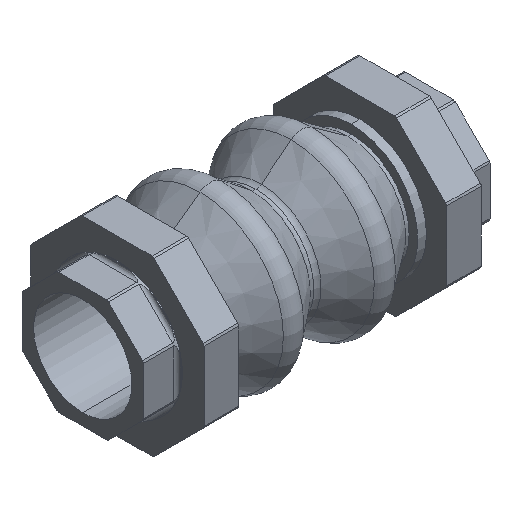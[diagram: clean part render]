
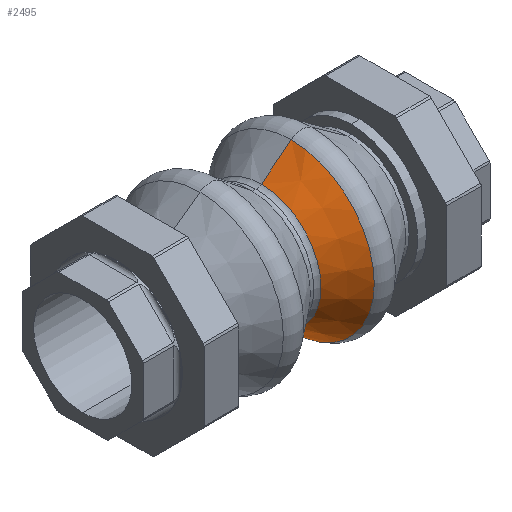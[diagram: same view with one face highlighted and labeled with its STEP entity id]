
A CAD part, isometric view. The second image highlights one B-rep face of the part: STEP entity #2495.
In plain terms, the highlighted conical face has half-angle 38.002 degrees and reference radius 47.88 mm.
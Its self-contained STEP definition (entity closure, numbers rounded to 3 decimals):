
#877 = VERTEX_POINT ( 'NONE', #2553 ) ;
#903 = EDGE_CURVE ( 'NONE', #912, #910, #2529, .T. ) ;
#905 = EDGE_CURVE ( 'NONE', #877, #912, #2570, .T. ) ;
#910 = VERTEX_POINT ( 'NONE', #2560 ) ;
#912 = VERTEX_POINT ( 'NONE', #2559 ) ;
#914 = EDGE_CURVE ( 'NONE', #877, #922, #2596, .T. ) ;
#922 = VERTEX_POINT ( 'NONE', #2585 ) ;
#2480 = EDGE_LOOP ( 'NONE', ( #3458, #3464, #3450, #3465 ) ) ;
#2495 = ADVANCED_FACE ( 'NONE', ( #4174 ), #4170, .T. ) ;
#2529 = LINE ( 'NONE', #2568, #2567 ) ;
#2545 = AXIS2_PLACEMENT_3D ( 'NONE', #2576, #2563, #2562 ) ;
#2553 = CARTESIAN_POINT ( 'NONE',  ( 3.078, 0., -34.39 ) ) ;
#2559 = CARTESIAN_POINT ( 'NONE',  ( 3.078, 0., 34.39 ) ) ;
#2560 = CARTESIAN_POINT ( 'NONE',  ( 20.343, 0., 47.88 ) ) ;
#2562 = DIRECTION ( 'NONE',  ( 0., 0., 1. ) ) ;
#2563 = DIRECTION ( 'NONE',  ( -1., 0., 0. ) ) ;
#2566 = DIRECTION ( 'NONE',  ( 0.788, 0., 0.616 ) ) ;
#2567 = VECTOR ( 'NONE', #2566, 1000. ) ;
#2568 = CARTESIAN_POINT ( 'NONE',  ( 20.343, 0., 47.88 ) ) ;
#2570 = CIRCLE ( 'NONE', #2545, 34.39 ) ;
#2576 = CARTESIAN_POINT ( 'NONE',  ( 3.078, 0., 0. ) ) ;
#2585 = CARTESIAN_POINT ( 'NONE',  ( 20.343, 0., -47.88 ) ) ;
#2593 = DIRECTION ( 'NONE',  ( 0.788, 0., -0.616 ) ) ;
#2594 = VECTOR ( 'NONE', #2593, 1000. ) ;
#2595 = CARTESIAN_POINT ( 'NONE',  ( 20.343, 0., -47.88 ) ) ;
#2596 = LINE ( 'NONE', #2595, #2594 ) ;
#3450 = ORIENTED_EDGE ( 'NONE', *, *, #914, .T. ) ;
#3455 = EDGE_CURVE ( 'NONE', #922, #910, #4289, .T. ) ;
#3458 = ORIENTED_EDGE ( 'NONE', *, *, #903, .F. ) ;
#3464 = ORIENTED_EDGE ( 'NONE', *, *, #905, .F. ) ;
#3465 = ORIENTED_EDGE ( 'NONE', *, *, #3455, .T. ) ;
#4166 = DIRECTION ( 'NONE',  ( 0., 0., -1. ) ) ;
#4167 = DIRECTION ( 'NONE',  ( 1., 0., 0. ) ) ;
#4168 = CARTESIAN_POINT ( 'NONE',  ( 20.343, 0., 0. ) ) ;
#4169 = AXIS2_PLACEMENT_3D ( 'NONE', #4168, #4167, #4166 ) ;
#4170 = CONICAL_SURFACE ( 'NONE', #4169, 47.88, 0.663 ) ;
#4174 = FACE_OUTER_BOUND ( 'NONE', #2480, .T. ) ;
#4273 = DIRECTION ( 'NONE',  ( 0., 0., 1. ) ) ;
#4274 = DIRECTION ( 'NONE',  ( -1., 0., 0. ) ) ;
#4275 = CARTESIAN_POINT ( 'NONE',  ( 20.343, 0., 0. ) ) ;
#4280 = AXIS2_PLACEMENT_3D ( 'NONE', #4275, #4274, #4273 ) ;
#4289 = CIRCLE ( 'NONE', #4280, 47.88 ) ;
